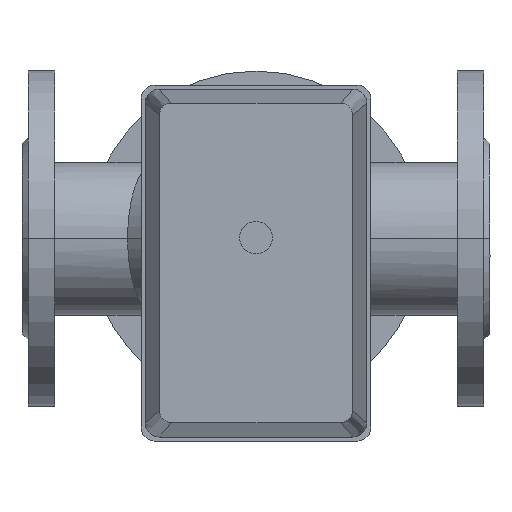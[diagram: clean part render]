
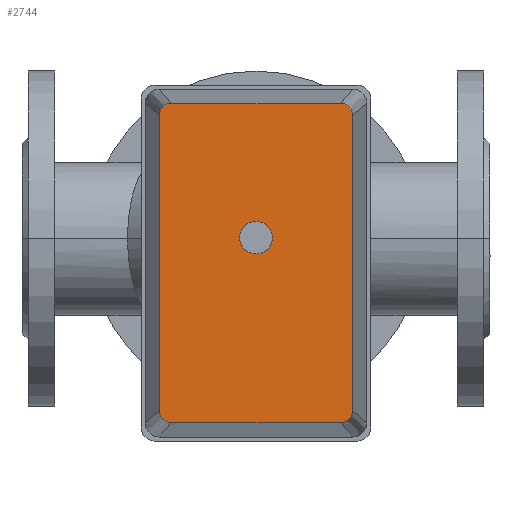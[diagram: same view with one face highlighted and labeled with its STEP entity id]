
A CAD part, top view. The second image highlights one B-rep face of the part: STEP entity #2744.
In plain terms, the highlighted planar face has unit normal (0, 0, 1).
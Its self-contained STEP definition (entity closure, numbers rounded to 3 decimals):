
#256=LINE('',#4671,#423);
#257=LINE('',#4675,#424);
#258=LINE('',#4679,#425);
#259=LINE('',#4683,#426);
#423=VECTOR('',#3823,304.8);
#424=VECTOR('',#3826,304.8);
#425=VECTOR('',#3829,304.8);
#426=VECTOR('',#3832,304.8);
#699=FACE_OUTER_BOUND('',#887,.T.);
#887=EDGE_LOOP('',(#2180,#2181,#2182,#2183,#2184,#2185,#2186,#2187));
#1063=CIRCLE('',#3073,6.);
#1064=CIRCLE('',#3074,6.);
#1065=CIRCLE('',#3075,6.);
#1066=CIRCLE('',#3076,6.);
#1276=VERTEX_POINT('',#4669);
#1277=VERTEX_POINT('',#4670);
#1278=VERTEX_POINT('',#4672);
#1279=VERTEX_POINT('',#4674);
#1280=VERTEX_POINT('',#4676);
#1281=VERTEX_POINT('',#4678);
#1282=VERTEX_POINT('',#4680);
#1283=VERTEX_POINT('',#4682);
#1589=EDGE_CURVE('',#1276,#1277,#256,.T.);
#1590=EDGE_CURVE('',#1277,#1278,#1063,.T.);
#1591=EDGE_CURVE('',#1278,#1279,#257,.T.);
#1592=EDGE_CURVE('',#1279,#1280,#1064,.T.);
#1593=EDGE_CURVE('',#1280,#1281,#258,.T.);
#1594=EDGE_CURVE('',#1281,#1282,#1065,.T.);
#1595=EDGE_CURVE('',#1282,#1283,#259,.T.);
#1596=EDGE_CURVE('',#1283,#1276,#1066,.T.);
#2180=ORIENTED_EDGE('',*,*,#1589,.T.);
#2181=ORIENTED_EDGE('',*,*,#1590,.T.);
#2182=ORIENTED_EDGE('',*,*,#1591,.T.);
#2183=ORIENTED_EDGE('',*,*,#1592,.T.);
#2184=ORIENTED_EDGE('',*,*,#1593,.T.);
#2185=ORIENTED_EDGE('',*,*,#1594,.T.);
#2186=ORIENTED_EDGE('',*,*,#1595,.T.);
#2187=ORIENTED_EDGE('',*,*,#1596,.T.);
#2434=PLANE('',#3072);
#2744=ADVANCED_FACE('',(#699),#2434,.T.);
#3072=AXIS2_PLACEMENT_3D('',#4668,#3821,#3822);
#3073=AXIS2_PLACEMENT_3D('',#4673,#3824,#3825);
#3074=AXIS2_PLACEMENT_3D('',#4677,#3827,#3828);
#3075=AXIS2_PLACEMENT_3D('',#4681,#3830,#3831);
#3076=AXIS2_PLACEMENT_3D('',#4684,#3833,#3834);
#3821=DIRECTION('center_axis',(0.,0.,1.));
#3822=DIRECTION('ref_axis',(0.,-1.,0.));
#3823=DIRECTION('',(0.,-1.,0.));
#3824=DIRECTION('center_axis',(0.,0.,1.));
#3825=DIRECTION('ref_axis',(1.,0.,0.));
#3826=DIRECTION('',(1.,0.,0.));
#3827=DIRECTION('center_axis',(0.,0.,1.));
#3828=DIRECTION('ref_axis',(1.,0.,0.));
#3829=DIRECTION('',(0.,1.,0.));
#3830=DIRECTION('center_axis',(0.,0.,1.));
#3831=DIRECTION('ref_axis',(1.,0.,0.));
#3832=DIRECTION('',(-1.,0.,0.));
#3833=DIRECTION('center_axis',(0.,0.,1.));
#3834=DIRECTION('ref_axis',(1.,0.,0.));
#4668=CARTESIAN_POINT('Origin',(-12.5,0.002,249.));
#4669=CARTESIAN_POINT('',(-91.,41.502,249.));
#4670=CARTESIAN_POINT('',(-91.,-41.498,249.));
#4671=CARTESIAN_POINT('',(-91.,-41.498,249.));
#4672=CARTESIAN_POINT('',(-85.,-47.498,249.));
#4673=CARTESIAN_POINT('Origin',(-85.,-41.498,249.));
#4674=CARTESIAN_POINT('',(60.,-47.498,249.));
#4675=CARTESIAN_POINT('',(60.,-47.498,249.));
#4676=CARTESIAN_POINT('',(66.,-41.498,249.));
#4677=CARTESIAN_POINT('Origin',(60.,-41.498,249.));
#4678=CARTESIAN_POINT('',(66.,41.502,249.));
#4679=CARTESIAN_POINT('',(66.,41.502,249.));
#4680=CARTESIAN_POINT('',(60.,47.502,249.));
#4681=CARTESIAN_POINT('Origin',(60.,41.502,249.));
#4682=CARTESIAN_POINT('',(-85.,47.502,249.));
#4683=CARTESIAN_POINT('',(-85.,47.502,249.));
#4684=CARTESIAN_POINT('Origin',(-85.,41.502,249.));
